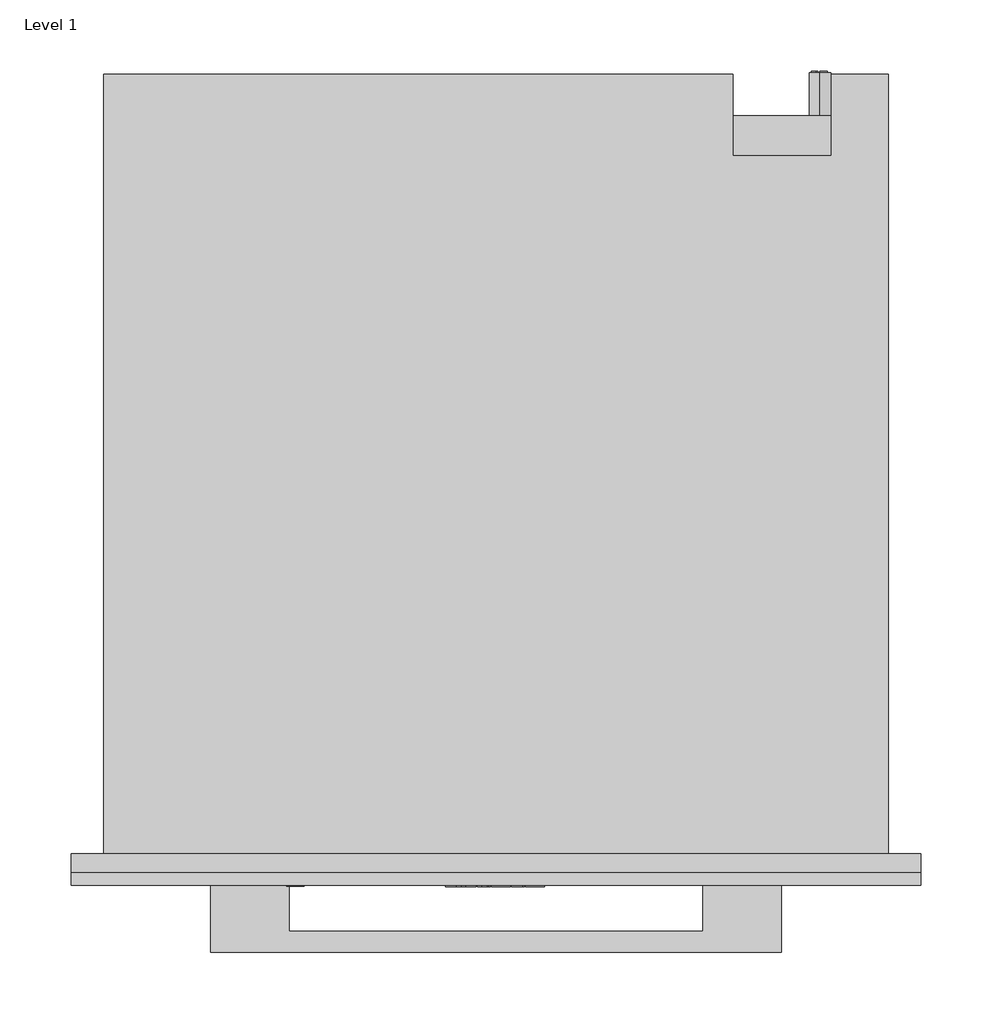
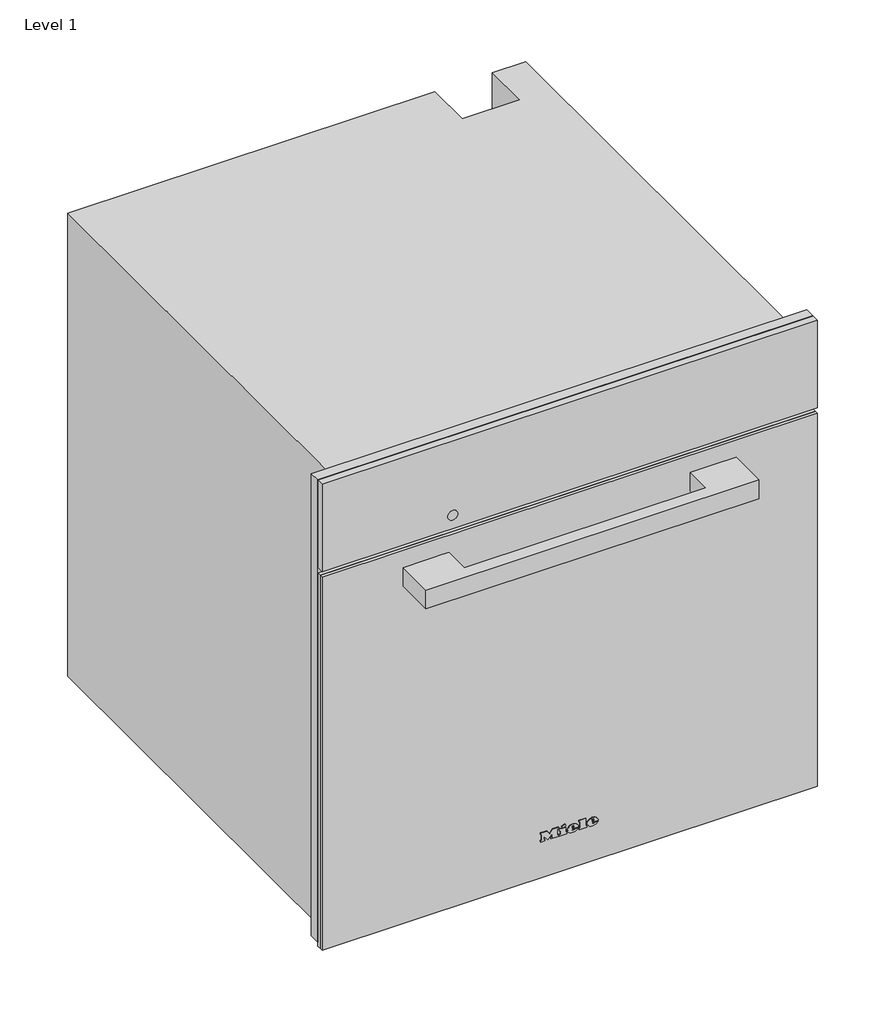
# One storey: 1 proxy.
"""IFC4 building model written with IfcOpenShell, lengths in millimetres."""

import ifcopenshell
import ifcopenshell.guid

model = None  # the IFC model being written
_history = None  # IfcOwnerHistory: only IFC2X3 demands one
_inside = {}  # id of a spatial element -> (the spatial element, [elements in it])
_under = {}  # id of a project, library or spatial element -> (it, [spatial elements below it])
_declared = {}  # id of a project -> (the project, [libraries it declares])
_typed = {}  # id of a type object -> (the type object, [elements of that type])
_made_of = {}  # id of a material, layer set ... -> (it, [elements and type objects made of it])


def new_model(schema):
    """Start an empty IFC model of exactly this schema.

    Asked for "IFC4X3", IfcOpenShell would pick the latest addendum, in which some entities
    have other attributes; the version numbers below select the first issue.
    IFC2X3 requires an IfcOwnerHistory on every rooted entity: one is made here for all.
    """
    global model, _history
    if schema == "IFC4X3":
        model = ifcopenshell.file(schema_version=(4, 3, 0, 0))
    else:
        model = ifcopenshell.file(schema=schema)
    _inside.clear()
    _under.clear()
    _declared.clear()
    _typed.clear()
    _made_of.clear()
    _history = None
    if model.schema == "IFC2X3":
        org = make("IfcOrganization", Name="unknown")
        user = make(
            "IfcPersonAndOrganization",
            ThePerson=make("IfcPerson", FamilyName="unknown"),
            TheOrganization=org,
        )
        app = make(
            "IfcApplication",
            ApplicationDeveloper=org,
            Version="unknown",
            ApplicationFullName="unknown",
            ApplicationIdentifier="unknown",
        )
        _history = make(
            "IfcOwnerHistory",
            OwningUser=user,
            OwningApplication=app,
            ChangeAction="ADDED",
            CreationDate=0,
        )
    return model


def make(cls, **values):
    """One entity of the class cls with the attributes given. An attribute that is None is left unset."""
    return model.create_entity(
        cls, **{name: value for name, value in values.items() if value is not None}
    )


def rooted(cls, **values):
    """An entity with a GlobalId (a new one), such as an element, a storey or a relation."""
    return make(cls, GlobalId=ifcopenshell.guid.new(), OwnerHistory=_history, **values)


def si_unit(unit_type, name, prefix=None):
    """IfcSIUnit, for example si_unit("LENGTHUNIT", "METRE", prefix="MILLI")."""
    return make("IfcSIUnit", UnitType=unit_type, Prefix=prefix, Name=name)


def assignment(units):
    """IfcUnitAssignment: the units of a project."""
    return None if units is None else make("IfcUnitAssignment", Units=units)


def point(xyz):
    """IfcCartesianPoint."""
    return None if xyz is None else make("IfcCartesianPoint", Coordinates=xyz)


def direction(xyz):
    """IfcDirection."""
    return None if xyz is None else make("IfcDirection", DirectionRatios=xyz)


def frame(location, z_axis=None, x_axis=None):
    """IfcAxis2Placement3D, a coordinate frame: its origin and axes. An axis left out is left unset."""
    return make(
        "IfcAxis2Placement3D",
        Location=point(location),
        Axis=direction(z_axis),
        RefDirection=direction(x_axis),
    )


def frame_2d(location, x_axis=None):
    """IfcAxis2Placement2D, a coordinate frame in the plane: its origin and x axis."""
    return make(
        "IfcAxis2Placement2D", Location=point(location), RefDirection=direction(x_axis)
    )


def origin():
    """The frame at (0, 0, 0) with its axes left unset."""
    return frame((0.0, 0.0, 0.0))


def place(relative_to, where):
    """IfcLocalPlacement: puts the frame where relative to a parent placement (None: the world)."""
    return make(
        "IfcLocalPlacement", PlacementRelTo=relative_to, RelativePlacement=where
    )


def context(
    kind, dimensions, precision=None, world=None, true_north=None, identifier=None
):
    """IfcGeometricRepresentationContext, for example the 3D "Model" context."""
    return make(
        "IfcGeometricRepresentationContext",
        ContextIdentifier=identifier,
        ContextType=kind,
        CoordinateSpaceDimension=dimensions,
        Precision=precision,
        WorldCoordinateSystem=world,
        TrueNorth=true_north,
    )


def project(units=None, contexts=None):
    """IfcProject with its units and contexts."""
    return rooted(
        "IfcProject",
        Name="project",
        RepresentationContexts=contexts,
        UnitsInContext=assignment(units),
    )


def spatial(cls, under=None, at=None, **own):
    """A site, building, storey or space (cls), placed at a placement, below another one or the project."""
    s = rooted(cls, ObjectPlacement=at, **own)
    if under is not None:
        _under.setdefault(under.id(), (under, []))[1].append(s)
    return s


def polyline(points):
    """IfcPolyline through the points."""
    return make("IfcPolyline", Points=[point(p) for p in points])


def circle_curve(where, radius):
    """IfcCircle in the frame where."""
    return make("IfcCircle", Position=where, Radius=radius)


def ellipse_curve(where, semi_axis1, semi_axis2):
    """IfcEllipse in the frame where."""
    return make(
        "IfcEllipse", Position=where, SemiAxis1=semi_axis1, SemiAxis2=semi_axis2
    )


def trimmed(basis, trim1, trim2, sense, master):
    """IfcTrimmedCurve: the piece of a basis curve between two trims."""
    return make(
        "IfcTrimmedCurve",
        BasisCurve=basis,
        Trim1=trim1,
        Trim2=trim2,
        SenseAgreement=sense,
        MasterRepresentation=master,
    )


def segment(curve, same_sense, transition):
    """IfcCompositeCurveSegment."""
    return make(
        "IfcCompositeCurveSegment",
        Transition=transition,
        SameSense=same_sense,
        ParentCurve=curve,
    )


def composite_curve(segments, self_intersect=None):
    """IfcCompositeCurve: segments joined end to end."""
    return make("IfcCompositeCurve", Segments=segments, SelfIntersect=self_intersect)


def outline(outer, holes=None, kind="AREA"):
    """IfcArbitraryClosedProfileDef: a profile drawn as a closed curve; with holes, ...WithVoids."""
    if holes is None:
        return make("IfcArbitraryClosedProfileDef", ProfileType=kind, OuterCurve=outer)
    return make(
        "IfcArbitraryProfileDefWithVoids",
        ProfileType=kind,
        OuterCurve=outer,
        InnerCurves=holes,
    )


def extrude(swept, where, along, depth):
    """IfcExtrudedAreaSolid: the profile swept, set in the frame where, extruded along a direction by depth."""
    return make(
        "IfcExtrudedAreaSolid",
        SweptArea=swept,
        Position=where,
        ExtrudedDirection=direction(along),
        Depth=depth,
    )


def faces_of(points, faces, orient=None, outer=None):
    """IfcFace entities. A face is a list of loops; a loop is a list of indices into points, from 0.

    orient and outer hold one flag for each loop. By default every Orientation is true, the
    first loop of a face is its IfcFaceOuterBound and the others are IfcFaceBound.
    """
    made = []
    for i, loops in enumerate(faces):
        bounds = []
        for j, loop in enumerate(loops):
            is_outer = j == 0 if outer is None else outer[i][j]
            bounds.append(
                make(
                    "IfcFaceOuterBound" if is_outer else "IfcFaceBound",
                    Bound=make("IfcPolyLoop", Polygon=[points[k] for k in loop]),
                    Orientation=True if orient is None else orient[i][j],
                )
            )
        made.append(make("IfcFace", Bounds=bounds))
    return made


def faceted_brep(points, faces, orient=None, outer=None, voids=None):
    """IfcFacetedBrep: a solid bounded by flat faces; with voids (closed shells), ...WithVoids."""
    shared = [point(p) for p in points]
    hull = make("IfcClosedShell", CfsFaces=faces_of(shared, faces, orient, outer))
    if voids is None:
        return make("IfcFacetedBrep", Outer=hull)
    return make(
        "IfcFacetedBrepWithVoids",
        Outer=hull,
        Voids=[
            make(cls, CfsFaces=faces_of(shared, fs, o, b)) for cls, fs, o, b in voids
        ],
    )


def shape(context_of_items, identifier, shape_type, items):
    """IfcShapeRepresentation: the items that make up one representation, for example the "Body"."""
    return make(
        "IfcShapeRepresentation",
        ContextOfItems=context_of_items,
        RepresentationIdentifier=identifier,
        RepresentationType=shape_type,
        Items=items,
    )


def source(mapping_origin, context_of_items, identifier, shape_type, items):
    """IfcRepresentationMap: a shape defined once, which mapped items show again and again."""
    return make(
        "IfcRepresentationMap",
        MappingOrigin=mapping_origin,
        MappedRepresentation=shape(context_of_items, identifier, shape_type, items),
    )


def transform(
    local_origin,
    x_axis=None,
    y_axis=None,
    z_axis=None,
    scale=None,
    scale2=None,
    scale3=None,
    uniform=True,
):
    """IfcCartesianTransformationOperator3D, or its non-uniform kind. x_axis, y_axis, z_axis: its Axis1, 2, 3."""
    if uniform:
        return make(
            "IfcCartesianTransformationOperator3D",
            Axis1=direction(x_axis),
            Axis2=direction(y_axis),
            LocalOrigin=point(local_origin),
            Scale=scale,
            Axis3=direction(z_axis),
        )
    return make(
        "IfcCartesianTransformationOperator3DnonUniform",
        Axis1=direction(x_axis),
        Axis2=direction(y_axis),
        LocalOrigin=point(local_origin),
        Scale=scale,
        Axis3=direction(z_axis),
        Scale2=scale2,
        Scale3=scale3,
    )


def mapped(mapping_source, mapping_target):
    """IfcMappedItem: shows the shape of a source again, moved by a transform."""
    return make(
        "IfcMappedItem", MappingSource=mapping_source, MappingTarget=mapping_target
    )


def made_of(thing, what):
    """Note that an element or type object is made of a material, layer set ...; save() writes the relation."""
    if what is not None:
        _made_of.setdefault(what.id(), (what, []))[1].append(thing)
    return thing


def element(
    cls,
    number,
    at=None,
    inside=None,
    cuts=None,
    type_object=None,
    material=None,
    context=None,
    identifier="Body",
    shape_type=None,
    held_by="IfcProductDefinitionShape",
    body=None,
    shapes=None,
    **own,
):
    """One element of the class cls, such as IfcWall. Its Tag is "e" and its number.

    at: its placement. inside: the storey or other place that contains it. cuts: it is an
    opening in that element (IfcRelVoidsElement). A single representation is given by context,
    identifier, shape_type and body (its items); several are given by shapes. held_by: the class
    of the entity that holds the representations. save() writes the other relations.
    """
    e = rooted(cls, Tag="e%d" % number, ObjectPlacement=at, **own)
    if body is not None:
        shapes = [shape(context, identifier, shape_type, body)]
    if shapes is not None:
        e.Representation = make(held_by, Representations=shapes)
    if inside is not None:
        _inside.setdefault(inside.id(), (inside, []))[1].append(e)
    if cuts is not None:
        rooted(
            "IfcRelVoidsElement", RelatingBuildingElement=cuts, RelatedOpeningElement=e
        )
    if type_object is not None:
        _typed.setdefault(type_object.id(), (type_object, []))[1].append(e)
    return made_of(e, material)


def aggregate(whole, parts):
    """IfcRelAggregates: a whole, such as a stair, and the parts it consists of."""
    return rooted("IfcRelAggregates", RelatingObject=whole, RelatedObjects=parts)


def save(model, path):
    """Write the relations noted so far, then the file.

    IfcRelAggregates (storeys below a building ...), IfcRelContainedInSpatialStructure (elements
    in a storey), IfcRelDefinesByType, IfcRelAssociatesMaterial and IfcRelDeclares: one each for
    every whole, place, type object, material and project.
    """
    for whole, parts in _under.values():
        aggregate(whole, parts)
    for where, things in _inside.values():
        rooted(
            "IfcRelContainedInSpatialStructure",
            RelatedElements=things,
            RelatingStructure=where,
        )
    for kind, things in _typed.values():
        rooted("IfcRelDefinesByType", RelatedObjects=things, RelatingType=kind)
    for what, things in _made_of.values():
        rooted("IfcRelAssociatesMaterial", RelatedObjects=things, RelatingMaterial=what)
    for by, libraries in _declared.values():
        rooted("IfcRelDeclares", RelatingContext=by, RelatedDefinitions=libraries)
    model.write(path)


def plane_surface(at):
    """IfcPlane: the flat surface through the origin of the frame at, square to its z axis."""
    return make("IfcPlane", Position=at)


def cylinder_surface(at, radius):
    """IfcCylindricalSurface: all points at the distance radius from the z axis of the frame at."""
    return make("IfcCylindricalSurface", Position=at, Radius=radius)


def revolved_surface(curve, axis_point, axis_direction):
    """IfcSurfaceOfRevolution: the curve turned about the line through axis_point along axis_direction."""
    return make(
        "IfcSurfaceOfRevolution",
        SweptCurve=make("IfcArbitraryOpenProfileDef", ProfileType="CURVE", Curve=curve),
        AxisPosition=make("IfcAxis1Placement", Location=point(axis_point), Axis=direction(axis_direction)),
    )


def extruded_surface(curve, direction_of_extrusion, depth):
    """IfcSurfaceOfLinearExtrusion: the curve pushed along a direction by depth."""
    return make(
        "IfcSurfaceOfLinearExtrusion",
        SweptCurve=make("IfcArbitraryOpenProfileDef", ProfileType="CURVE", Curve=curve),
        ExtrudedDirection=direction(direction_of_extrusion),
        Depth=depth,
    )


def advanced_brep(points, edges, surfaces, faces):
    """IfcAdvancedBrep: a solid bounded by faces that lie on surfaces and meet in shared edges.

    An edge is (start, end): straight between two places in points (the first is 0);
    or (start, end, curve); or (start, end, curve, False) where it runs against its curve.
    A face is (place in surfaces, loops), or (place, loops, False) where it looks against
    its surface's normal. A loop lists edges by number (the first is 1), with a minus sign
    where the edge is run from its end to its start. The first loop is the outer one.
    """
    corners = [point(p) for p in points]
    vertices = [make("IfcVertexPoint", VertexGeometry=c) for c in corners]
    made = []
    for start, end, *more in edges:
        made.append(
            make(
                "IfcEdgeCurve",
                EdgeStart=vertices[start],
                EdgeEnd=vertices[end],
                EdgeGeometry=more[0] if more else make("IfcPolyline", Points=[corners[start], corners[end]]),
                SameSense=more[1] if len(more) > 1 else True,
            )
        )
    hull = []
    for where, loops, *sense in faces:
        bounds = []
        for j, loop in enumerate(loops):
            ring = [make("IfcOrientedEdge", EdgeElement=made[abs(k) - 1], Orientation=k > 0) for k in loop]
            bounds.append(
                make(
                    "IfcFaceOuterBound" if j == 0 else "IfcFaceBound",
                    Bound=make("IfcEdgeLoop", EdgeList=ring),
                    Orientation=True,
                )
            )
        hull.append(make("IfcAdvancedFace", Bounds=bounds, FaceSurface=surfaces[where], SameSense=sense[0] if sense else True))
    return make("IfcAdvancedBrep", Outer=make("IfcClosedShell", CfsFaces=hull))


def specialty_equipment_684bbd22(model_context):
    return source(origin(), model_context, "Body", "SolidModel", [
        extrude(outline(polyline([(596.0, 297.5), (596.0, -297.5), (9.0, -297.5), (9.0, 297.5), (596.0, 297.5)]), holes=[polyline([(485.0, -272.5), (485.0, 272.5), (27.0, 272.5), (27.0, -272.5), (485.0, -272.5)])]), frame((0.0, -13.0, 0.0), z_axis=(0.0, 1.0, 0.0), x_axis=(0.0, 0.0, 1.0)), (0.0, 0.0, 1.0), 13.0),
        advanced_brep(
        [(227.0, 547.0, 396.5), (227.0, 547.0, 381.5), (221.4098301, 547.0, 384.0), (225.5, 547.0, 384.0), (225.5, 547.0, 394.0), (224.4955303, 547.0, 394.0), (224.4955303, 547.0, 385.0), (221.0315043, 547.0, 385.0), (221.0315043, 547.0, 384.4582978), (232.0, 547.0, 384.0), (232.0, 547.0, 394.0), (227.0, 547.0, 394.0), (227.0, 547.0, 393.0), (231.0, 547.0, 393.0), (231.0, 547.0, 389.5), (228.0, 547.0, 389.5), (228.0, 547.0, 388.5), (231.0, 547.0, 388.5), (231.0, 547.0, 385.0), (227.0, 547.0, 385.0), (227.0, 547.0, 384.0), (227.0, 517.0, 381.5), (227.0, 517.0, 396.5), (232.0, 548.0, 394.0), (232.0, 548.0, 384.0), (227.0, 548.0, 384.0), (227.0, 548.0, 385.0), (231.0, 548.0, 385.0), (231.0, 548.0, 388.5), (228.0, 548.0, 388.5), (228.0, 548.0, 389.5), (231.0, 548.0, 389.5), (231.0, 548.0, 393.0), (227.0, 548.0, 393.0), (227.0, 548.0, 394.0), (225.5, 548.0, 384.0), (221.0315043, 548.0, 384.0), (221.0315043, 548.0, 385.0), (224.4955303, 548.0, 385.0), (224.4955303, 548.0, 394.0), (225.5, 548.0, 394.0), (221.0315043, 547.0, 384.0)],
        [
            (0, 1, circle_curve(frame((227.0, 547.0, 389.0), z_axis=(0.0, 1.0, 0.0), x_axis=(0.0, 0.0, 1.0)), 7.5)),
            (1, 2, circle_curve(frame((227.0, 547.0, 389.0), z_axis=(0.0, 1.0, 0.0), x_axis=(0.0, 0.0, 1.0)), 7.5)),
            (2, 3),
            (3, 4),
            (4, 5),
            (5, 6),
            (6, 7),
            (7, 8),
            (8, 0, circle_curve(frame((227.0, 547.0, 389.0), z_axis=(0.0, 1.0, 0.0), x_axis=(0.0, 0.0, 1.0)), 7.5)),
            (9, 10),
            (10, 11),
            (11, 12),
            (12, 13),
            (13, 14),
            (14, 15),
            (15, 16),
            (16, 17),
            (17, 18),
            (18, 19),
            (19, 20),
            (20, 9),
            (21, 22, circle_curve(frame((227.0, 517.0, 389.0), z_axis=(0.0, -1.0, 0.0), x_axis=(0.0, 0.0, 1.0)), 7.5)),
            (22, 21, circle_curve(frame((227.0, 517.0, 389.0), z_axis=(0.0, -1.0, 0.0), x_axis=(0.0, 0.0, 1.0)), 7.5)),
            (0, 22),
            (21, 1),
            (8, 2, circle_curve(frame((227.0, 547.0, 389.0), z_axis=(0.0, -1.0, 0.0), x_axis=(0.0, 0.0, 1.0)), 7.5)),
            (23, 24),
            (24, 25),
            (25, 26),
            (26, 27),
            (27, 28),
            (28, 29),
            (29, 30),
            (30, 31),
            (31, 32),
            (32, 33),
            (33, 34),
            (34, 23),
            (35, 36),
            (36, 37),
            (37, 38),
            (38, 39),
            (39, 40),
            (40, 35),
            (8, 41),
            (41, 2),
            (23, 10),
            (9, 24),
            (20, 25),
            (19, 26),
            (18, 27),
            (17, 28),
            (16, 29),
            (15, 30),
            (14, 31),
            (13, 32),
            (12, 33),
            (11, 34),
            (35, 3),
            (41, 36),
            (7, 37),
            (6, 38),
            (5, 39),
            (4, 40),
        ],
        [
            plane_surface(frame((227.0, 547.0, 396.5), z_axis=(0.0, 1.0, 0.0), x_axis=(1.0, 0.0, 0.0))),
            plane_surface(frame((227.0, 517.0, 396.5), z_axis=(0.0, -1.0, 0.0), x_axis=(-1.0, 0.0, 0.0))),
            cylinder_surface(frame((227.0, 547.0, 389.0), z_axis=(0.0, -1.0, 0.0), x_axis=(0.0, 0.0, 1.0)), 7.5),
            plane_surface(frame((232.0, 548.0, 394.0), z_axis=(0.0, 1.0, 0.0), x_axis=(0.0, 0.0, -1.0))),
            plane_surface(frame((232.0, 547.0, 394.0), z_axis=(0.0, -1.0, 0.0), x_axis=(0.0, 0.0, 1.0))),
            plane_surface(frame((232.0, 548.0, 394.0), z_axis=(1.0, 0.0, 0.0), x_axis=(0.0, -1.0, 0.0))),
            plane_surface(frame((232.0, 548.0, 384.0), z_axis=(0.0, 0.0, -1.0), x_axis=(0.0, -1.0, 0.0))),
            plane_surface(frame((227.0, 548.0, 384.0), z_axis=(-1.0, 0.0, 0.0), x_axis=(0.0, -1.0, 0.0))),
            plane_surface(frame((227.0, 548.0, 385.0), z_axis=(0.0, 0.0, 1.0), x_axis=(0.0, -1.0, 0.0))),
            plane_surface(frame((231.0, 548.0, 385.0), z_axis=(-1.0, 0.0, 0.0), x_axis=(0.0, -1.0, 0.0))),
            plane_surface(frame((231.0, 548.0, 388.5), z_axis=(0.0, 0.0, -1.0), x_axis=(0.0, -1.0, 0.0))),
            plane_surface(frame((228.0, 548.0, 388.5), z_axis=(-1.0, 0.0, 0.0), x_axis=(0.0, -1.0, 0.0))),
            plane_surface(frame((228.0, 548.0, 389.5), z_axis=(0.0, 0.0, 1.0), x_axis=(0.0, -1.0, 0.0))),
            plane_surface(frame((231.0, 548.0, 389.5), z_axis=(-1.0, 0.0, 0.0), x_axis=(0.0, -1.0, 0.0))),
            plane_surface(frame((231.0, 548.0, 393.0), z_axis=(0.0, 0.0, -1.0), x_axis=(0.0, -1.0, 0.0))),
            plane_surface(frame((227.0, 548.0, 393.0), z_axis=(-1.0, 0.0, 0.0), x_axis=(0.0, -1.0, 0.0))),
            plane_surface(frame((227.0, 548.0, 394.0), z_axis=(0.0, 0.0, 1.0), x_axis=(0.0, -1.0, 0.0))),
            plane_surface(frame((225.5, 548.0, 384.0), z_axis=(0.0, 0.0, -1.0), x_axis=(0.0, -1.0, 0.0))),
            plane_surface(frame((221.0315043, 548.0, 384.0), z_axis=(-1.0, 0.0, 0.0), x_axis=(0.0, -1.0, 0.0))),
            plane_surface(frame((221.0315043, 548.0, 385.0), z_axis=(0.0, 0.0, 1.0), x_axis=(0.0, -1.0, 0.0))),
            plane_surface(frame((224.4955303, 548.0, 385.0), z_axis=(-1.0, 0.0, 0.0), x_axis=(0.0, -1.0, 0.0))),
            plane_surface(frame((224.4955303, 548.0, 394.0), z_axis=(0.0, 0.0, 1.0), x_axis=(0.0, -1.0, 0.0))),
            plane_surface(frame((225.5, 548.0, 394.0), z_axis=(1.0, 0.0, 0.0), x_axis=(0.0, -1.0, 0.0))),
        ],
        [
            (0, [[1, 2, 3, 4, 5, 6, 7, 8, 9], [10, 11, 12, 13, 14, 15, 16, 17, 18, 19, 20, 21]]),
            (1, [[22, 23]]),
            (2, [[-1, 24, -22, 25]]),
            (2, [[-23, -24, -9, 26, -2, -25]]),
            (3, [[27, 28, 29, 30, 31, 32, 33, 34, 35, 36, 37, 38]]),
            (3, [[39, 40, 41, 42, 43, 44]]),
            (4, [[45, 46, -26]]),
            (5, [[-27, 47, -10, 48]]),
            (6, [[-28, -48, -21, 49]]),
            (7, [[-29, -49, -20, 50]]),
            (8, [[-30, -50, -19, 51]]),
            (9, [[-31, -51, -18, 52]]),
            (10, [[-32, -52, -17, 53]]),
            (11, [[-33, -53, -16, 54]]),
            (12, [[-34, -54, -15, 55]]),
            (13, [[-35, -55, -14, 56]]),
            (14, [[-36, -56, -13, 57]]),
            (15, [[-37, -57, -12, 58]]),
            (16, [[-38, -58, -11, -47]]),
            (17, [[-39, 59, -3, -46, 60]]),
            (18, [[-40, -60, -45, -8, 61]]),
            (19, [[-41, -61, -7, 62]]),
            (20, [[-42, -62, -6, 63]]),
            (21, [[-43, -63, -5, 64]]),
            (22, [[-44, -64, -4, -59]]),
        ],
    ),
        faceted_brep([(-275.0, 546.0, 0.0), (-275.0, 546.0, 588.0), (166.0, 546.0, 588.0), (166.0, 546.0, 0.0), (235.0, 546.0, 588.0), (275.0, 546.0, 588.0), (275.0, 546.0, 478.0), (235.0, 546.0, 478.0), (275.0, 0.0, 588.0), (-275.0, 0.0, 588.0), (-275.0, 0.0, 0.0), (275.0, 0.0, 0.0), (-272.5, 0.0, 485.0), (272.5, 0.0, 485.0), (272.5, 0.0, 27.0), (-272.5, 0.0, 27.0), (235.0, 489.0, 588.0), (166.0, 489.0, 588.0), (166.0, 517.0, 0.0), (275.0, 517.0, 0.0), (275.0, 517.0, 478.0), (272.5, 17.0, 485.0), (-272.5, 17.0, 485.0), (-272.5, 17.0, 27.0), (272.5, 17.0, 27.0), (231.0, 17.0, 409.0), (231.0, 17.0, 61.0), (-231.0, 17.0, 61.0), (-231.0, 17.0, 409.0), (231.0, 411.0, 409.0), (-231.0, 411.0, 409.0), (-231.0, 411.0, 61.0), (231.0, 411.0, 61.0), (235.0, 489.0, 477.0), (166.0, 489.0, 477.0), (166.0, 517.0, 477.0), (235.0, 517.0, 477.0), (235.0, 517.0, 478.0)], [[[0, 1, 2, 3]], [[4, 5, 6, 7]], [[8, 9, 10, 11], [12, 13, 14, 15]], [[9, 8, 5, 4, 16, 17, 2, 1]], [[1, 0, 10, 9]], [[11, 10, 0, 3, 18, 19]], [[8, 11, 19, 20, 6, 5]], [[21, 22, 23, 24], [25, 26, 27, 28]], [[22, 21, 13, 12]], [[23, 22, 12, 15]], [[24, 23, 15, 14]], [[21, 24, 14, 13]], [[29, 30, 31, 32]], [[29, 32, 26, 25]], [[32, 31, 27, 26]], [[31, 30, 28, 27]], [[30, 29, 25, 28]], [[16, 33, 34, 17]], [[17, 34, 35, 18, 3, 2]], [[34, 33, 36, 35]], [[33, 16, 4, 7, 37, 36]], [[37, 20, 19, 18, 35, 36]], [[20, 37, 7, 6]]]),
        advanced_brep(
        [(26.2998, -23.0, 52.7018), (26.2998, -23.0, 53.8532), (33.9264, -23.0, 53.8532), (20.6568, -23.0, 53.8532), (23.7918, -23.0, 50.0), (33.7326, -23.0, 52.7018), (30.2898, -23.0, 52.7018), (27.5766, -23.0, 51.425), (26.2998, -23.0, 55.3124), (26.2998, -23.0, 56.555), (28.2492, -23.0, 56.555), (28.2492, -23.0, 55.3124), (26.2998, -22.0, 52.7018), (27.5766, -22.0, 51.425), (30.2898, -22.0, 52.7018), (33.7326, -22.0, 52.7018), (23.7918, -22.0, 50.0), (20.6568, -22.0, 53.8532), (33.9264, -22.0, 53.8532), (26.2998, -22.0, 53.8532), (26.2998, -22.0, 55.3124), (28.2492, -22.0, 55.3124), (28.2492, -22.0, 56.555), (26.2998, -22.0, 56.555)],
        [
            (0, 1),
            (1, 2),
            (2, 3, ellipse_curve(frame((27.2916, -23.0, 53.8532), z_axis=(0.0, -1.0, 0.0), x_axis=(-1.0, 0.0, 0.0)), 6.6348, 5.4834)),
            (3, 4, circle_curve(frame((25.0686622, -23.0, 54.2408), z_axis=(0.0, -1.0, 0.0), x_axis=(0.0, 0.0, -1.0)), 4.4288556)),
            (4, 5, circle_curve(frame((27.1587808, -23.0, 57.2504), z_axis=(0.0, -1.0, 0.0), x_axis=(0.0, 0.0, -1.0)), 7.9940516)),
            (5, 6),
            (6, 7, circle_curve(frame((28.1338588, -23.0, 53.762), z_axis=(0.0, 1.0, 0.0), x_axis=(0.0, 0.0, -1.0)), 2.4025208)),
            (7, 0, circle_curve(frame((27.5766, -23.0, 52.7018), z_axis=(0.0, 1.0, 0.0), x_axis=(0.0, 0.0, -1.0)), 1.2768)),
            (8, 9),
            (9, 10, circle_curve(frame((27.2745, -23.0, 56.555), z_axis=(0.0, 1.0, 0.0), x_axis=(0.0, 0.0, -1.0)), 0.9747)),
            (10, 11),
            (11, 8),
            (12, 13, circle_curve(frame((27.5766, -22.0, 52.7018), z_axis=(0.0, -1.0, 0.0), x_axis=(0.0, 0.0, -1.0)), 1.2768)),
            (13, 14, circle_curve(frame((28.1338588, -22.0, 53.762), z_axis=(0.0, -1.0, 0.0), x_axis=(0.0, 0.0, -1.0)), 2.4025208)),
            (14, 15),
            (15, 16, circle_curve(frame((27.1587808, -22.0, 57.2504), z_axis=(0.0, 1.0, 0.0), x_axis=(0.0, 0.0, -1.0)), 7.9940516)),
            (16, 17, circle_curve(frame((25.0686622, -22.0, 54.2408), z_axis=(0.0, 1.0, 0.0), x_axis=(0.0, 0.0, -1.0)), 4.4288556)),
            (17, 18, ellipse_curve(frame((27.2916, -22.0, 53.8532), z_axis=(0.0, 1.0, 0.0), x_axis=(-1.0, 0.0, 0.0)), 6.6348, 5.4834)),
            (18, 19),
            (19, 12),
            (20, 21),
            (21, 22),
            (22, 23, circle_curve(frame((27.2745, -22.0, 56.555), z_axis=(0.0, -1.0, 0.0), x_axis=(0.0, 0.0, -1.0)), 0.9747)),
            (23, 20),
            (0, 12),
            (19, 1),
            (18, 2),
            (5, 15),
            (14, 6),
            (17, 3),
            (13, 7),
            (16, 4),
            (8, 20),
            (23, 9),
            (22, 10),
            (21, 11),
        ],
        [
            plane_surface(frame((26.2998, -23.0, 53.8532), z_axis=(0.0, -1.0, 0.0), x_axis=(0.0, 0.0, 1.0))),
            plane_surface(frame((26.2998, -22.0, 53.8532), z_axis=(0.0, 1.0, 0.0), x_axis=(0.0, 0.0, -1.0))),
            plane_surface(frame((26.2998, -23.0, 52.7018), z_axis=(1.0, 0.0, 0.0), x_axis=(0.0, 1.0, 0.0))),
            plane_surface(frame((26.2998, -23.0, 53.8532), z_axis=(0.0, 0.0, -1.0), x_axis=(0.0, 1.0, 0.0))),
            plane_surface(frame((33.7326, -23.0, 52.7018), z_axis=(0.0, 0.0, 1.0), x_axis=(0.0, 1.0, 0.0))),
            extruded_surface(trimmed(ellipse_curve(frame((27.2916, -21.0, 53.8532), z_axis=(0.0, -1.0, 0.0), x_axis=(-1.0, 0.0, 0.0)), 6.6348, 5.4834), [point((33.9264, -21.0, 53.8532))], [point((20.6568, -21.0, 53.8532))], True, "CARTESIAN"), (0.0, -1.0, 0.0), 1.0),
            revolved_surface(polyline([(28.1338588, -22.0, 51.3594792), (28.1338588, -23.0, 51.3594792)]), (28.1338588, -22.0, 53.762), (0.0, 1.0, 0.0)),
            revolved_surface(polyline([(27.5766, -22.0, 51.425), (27.5766, -23.0, 51.425)]), (27.5766, -22.0, 52.7018), (0.0, 1.0, 0.0)),
            cylinder_surface(frame((25.0686622, -22.0, 54.2408), z_axis=(0.0, -1.0, 0.0), x_axis=(0.0, 0.0, -1.0)), 4.4288556),
            cylinder_surface(frame((27.1587808, -22.0, 57.2504), z_axis=(0.0, -1.0, 0.0), x_axis=(0.0, 0.0, -1.0)), 7.9940516),
            plane_surface(frame((26.2998, -23.0, 55.3124), z_axis=(1.0, 0.0, 0.0), x_axis=(0.0, 1.0, 0.0))),
            revolved_surface(polyline([(27.2745, -22.0, 55.5803), (27.2745, -23.0, 55.5803)]), (27.2745, -22.0, 56.555), (0.0, 1.0, 0.0)),
            plane_surface(frame((28.2492, -23.0, 56.555), z_axis=(-1.0, 0.0, 0.0), x_axis=(0.0, 1.0, 0.0))),
            plane_surface(frame((28.2492, -23.0, 55.3124), z_axis=(0.0, 0.0, 1.0), x_axis=(0.0, 1.0, 0.0))),
        ],
        [
            (0, [[1, 2, 3, 4, 5, 6, 7, 8], [9, 10, 11, 12]]),
            (1, [[13, 14, 15, 16, 17, 18, 19, 20], [21, 22, 23, 24]]),
            (2, [[-1, 25, -20, 26]]),
            (3, [[-2, -26, -19, 27]]),
            (4, [[-6, 28, -15, 29]]),
            (5, [[-3, -27, -18, 30]]),
            (6, [[-7, -29, -14, 31]]),
            (7, [[-8, -31, -13, -25]]),
            (8, [[-4, -30, -17, 32]]),
            (9, [[-5, -32, -16, -28]]),
            (10, [[-9, 33, -24, 34]]),
            (11, [[-10, -34, -23, 35]]),
            (12, [[-11, -35, -22, 36]]),
            (13, [[-12, -36, -21, -33]]),
        ],
    ),
        advanced_brep(
        [(2.508, -23.0, 52.7018), (2.508, -23.0, 53.8532), (10.1346, -23.0, 53.8532), (-3.135, -23.0, 53.8532), (0.0, -23.0, 50.0), (9.9408, -23.0, 52.7018), (6.498, -23.0, 52.7018), (3.7848, -23.0, 51.425), (2.508, -23.0, 55.3124), (2.508, -23.0, 56.555), (4.4574, -23.0, 56.555), (4.4574, -23.0, 55.3124), (2.508, -22.0, 52.7018), (3.7848, -22.0, 51.425), (6.498, -22.0, 52.7018), (9.9408, -22.0, 52.7018), (0.0, -22.0, 50.0), (-3.135, -22.0, 53.8532), (10.1346, -22.0, 53.8532), (2.508, -22.0, 53.8532), (2.508, -22.0, 55.3124), (4.4574, -22.0, 55.3124), (4.4574, -22.0, 56.555), (2.508, -22.0, 56.555)],
        [
            (0, 1),
            (1, 2),
            (2, 3, ellipse_curve(frame((3.4998, -23.0, 53.8532), z_axis=(0.0, -1.0, 0.0), x_axis=(-1.0, 0.0, 0.0)), 6.6348, 5.4834)),
            (3, 4, circle_curve(frame((1.2768622, -23.0, 54.2408), z_axis=(0.0, -1.0, 0.0), x_axis=(0.0, 0.0, -1.0)), 4.4288556)),
            (4, 5, circle_curve(frame((3.3669808, -23.0, 57.2504), z_axis=(0.0, -1.0, 0.0), x_axis=(0.0, 0.0, -1.0)), 7.9940516)),
            (5, 6),
            (6, 7, circle_curve(frame((4.3420588, -23.0, 53.762), z_axis=(0.0, 1.0, 0.0), x_axis=(0.0, 0.0, -1.0)), 2.4025208)),
            (7, 0, circle_curve(frame((3.7848, -23.0, 52.7018), z_axis=(0.0, 1.0, 0.0), x_axis=(0.0, 0.0, -1.0)), 1.2768)),
            (8, 9),
            (9, 10, circle_curve(frame((3.4827, -23.0, 56.555), z_axis=(0.0, 1.0, 0.0), x_axis=(0.0, 0.0, -1.0)), 0.9747)),
            (10, 11),
            (11, 8),
            (12, 13, circle_curve(frame((3.7848, -22.0, 52.7018), z_axis=(0.0, -1.0, 0.0), x_axis=(0.0, 0.0, -1.0)), 1.2768)),
            (13, 14, circle_curve(frame((4.3420588, -22.0, 53.762), z_axis=(0.0, -1.0, 0.0), x_axis=(0.0, 0.0, -1.0)), 2.4025208)),
            (14, 15),
            (15, 16, circle_curve(frame((3.3669808, -22.0, 57.2504), z_axis=(0.0, 1.0, 0.0), x_axis=(0.0, 0.0, -1.0)), 7.9940516)),
            (16, 17, circle_curve(frame((1.2768622, -22.0, 54.2408), z_axis=(0.0, 1.0, 0.0), x_axis=(0.0, 0.0, -1.0)), 4.4288556)),
            (17, 18, ellipse_curve(frame((3.4998, -22.0, 53.8532), z_axis=(0.0, 1.0, 0.0), x_axis=(-1.0, 0.0, 0.0)), 6.6348, 5.4834)),
            (18, 19),
            (19, 12),
            (20, 21),
            (21, 22),
            (22, 23, circle_curve(frame((3.4827, -22.0, 56.555), z_axis=(0.0, -1.0, 0.0), x_axis=(0.0, 0.0, -1.0)), 0.9747)),
            (23, 20),
            (0, 12),
            (19, 1),
            (18, 2),
            (5, 15),
            (14, 6),
            (17, 3),
            (13, 7),
            (16, 4),
            (8, 20),
            (23, 9),
            (22, 10),
            (21, 11),
        ],
        [
            plane_surface(frame((2.508, -23.0, 53.8532), z_axis=(0.0, -1.0, 0.0), x_axis=(0.0, 0.0, 1.0))),
            plane_surface(frame((2.508, -22.0, 53.8532), z_axis=(0.0, 1.0, 0.0), x_axis=(0.0, 0.0, -1.0))),
            plane_surface(frame((2.508, -23.0, 52.7018), z_axis=(1.0, 0.0, 0.0), x_axis=(0.0, 1.0, 0.0))),
            plane_surface(frame((2.508, -23.0, 53.8532), z_axis=(0.0, 0.0, -1.0), x_axis=(0.0, 1.0, 0.0))),
            plane_surface(frame((9.9408, -23.0, 52.7018), z_axis=(0.0, 0.0, 1.0), x_axis=(0.0, 1.0, 0.0))),
            extruded_surface(trimmed(ellipse_curve(frame((3.4998, -21.0, 53.8532), z_axis=(0.0, -1.0, 0.0), x_axis=(-1.0, 0.0, 0.0)), 6.6348, 5.4834), [point((10.1346, -21.0, 53.8532))], [point((-3.135, -21.0, 53.8532))], True, "CARTESIAN"), (0.0, -1.0, 0.0), 1.0),
            revolved_surface(polyline([(4.3420588, -22.0, 51.3594792), (4.3420588, -23.0, 51.3594792)]), (4.3420588, -22.0, 53.762), (0.0, 1.0, 0.0)),
            revolved_surface(polyline([(3.7848, -22.0, 51.425), (3.7848, -23.0, 51.425)]), (3.7848, -22.0, 52.7018), (0.0, 1.0, 0.0)),
            cylinder_surface(frame((1.2768622, -22.0, 54.2408), z_axis=(0.0, -1.0, 0.0), x_axis=(0.0, 0.0, -1.0)), 4.4288556),
            cylinder_surface(frame((3.3669808, -22.0, 57.2504), z_axis=(0.0, -1.0, 0.0), x_axis=(0.0, 0.0, -1.0)), 7.9940516),
            plane_surface(frame((2.508, -23.0, 55.3124), z_axis=(1.0, 0.0, 0.0), x_axis=(0.0, 1.0, 0.0))),
            revolved_surface(polyline([(3.4827, -22.0, 55.5803), (3.4827, -23.0, 55.5803)]), (3.4827, -22.0, 56.555), (0.0, 1.0, 0.0)),
            plane_surface(frame((4.4574, -23.0, 56.555), z_axis=(-1.0, 0.0, 0.0), x_axis=(0.0, 1.0, 0.0))),
            plane_surface(frame((4.4574, -23.0, 55.3124), z_axis=(0.0, 0.0, 1.0), x_axis=(0.0, 1.0, 0.0))),
        ],
        [
            (0, [[1, 2, 3, 4, 5, 6, 7, 8], [9, 10, 11, 12]]),
            (1, [[13, 14, 15, 16, 17, 18, 19, 20], [21, 22, 23, 24]]),
            (2, [[-1, 25, -20, 26]]),
            (3, [[-2, -26, -19, 27]]),
            (4, [[-6, 28, -15, 29]]),
            (5, [[-3, -27, -18, 30]]),
            (6, [[-7, -29, -14, 31]]),
            (7, [[-8, -31, -13, -25]]),
            (8, [[-4, -30, -17, 32]]),
            (9, [[-5, -32, -16, -28]]),
            (10, [[-9, 33, -24, 34]]),
            (11, [[-10, -34, -23, 35]]),
            (12, [[-11, -35, -22, 36]]),
            (13, [[-12, -36, -21, -33]]),
        ],
    ),
        extrude(outline(polyline([(60.7274, -9.9522), (58.8806, -9.0858), (60.6818, -5.2212), (62.5286, -6.0762), (60.7274, -9.9522)])), frame((0.0, -23.0, 0.0), z_axis=(0.0, 1.0, 0.0), x_axis=(0.0, 0.0, 1.0)), (0.0, 0.0, 1.0), 1.0),
        extrude(outline(polyline([(58.6298, -12.768), (56.5892, -12.768), (56.5892, -11.4114), (51.9152, -11.4114), (51.9152, -12.768), (50.0, -12.768), (50.0, -3.7734), (51.9152, -3.7734), (51.9152, -5.0958), (58.6298, -5.0958), (58.6298, -12.768)])), frame((0.0, -23.0, 0.0), z_axis=(0.0, 1.0, 0.0), x_axis=(0.0, 0.0, 1.0)), (0.0, 0.0, 1.0), 1.0),
        extrude(outline(polyline([(59.5418, 10.773), (59.5418, 12.141), (51.9152, 12.141), (51.9152, 10.773), (50.0, 10.773), (50.0, 20.0184), (51.9152, 20.0184), (51.9152, 18.6162), (61.4, 18.6162), (61.4, 10.773), (59.5418, 10.773)])), frame((0.0, -23.0, 0.0), z_axis=(0.0, 1.0, 0.0), x_axis=(0.0, 0.0, 1.0)), (0.0, 0.0, 1.0), 1.0),
        extrude(outline(polyline([(59.5418, -35.4882), (59.5418, -34.1088), (51.9152, -34.1088), (51.9152, -35.4882), (50.0, -35.4882), (50.0, -30.4722), (51.9152, -30.4722), (51.9152, -31.8402), (56.7429247, -31.8402), (50.0, -26.7444), (56.9402223, -21.6258), (51.9152, -21.6258), (51.9152, -23.028), (50.0, -23.028), (50.0, -13.9308), (51.9152, -13.9308), (51.9152, -15.3786), (59.5418, -15.3786), (59.5418, -13.9308), (61.4, -13.9308), (61.4, -20.8734), (57.125, -24.2022), (61.4, -27.5424), (61.4, -35.4882), (59.5418, -35.4882)])), frame((0.0, -23.0, 0.0), z_axis=(0.0, 1.0, 0.0), x_axis=(0.0, 0.0, 1.0)), (0.0, 0.0, 1.0), 1.0),
        extrude(outline(polyline([(297.5, -22.0), (-297.5, -22.0), (-297.5, -13.0), (297.5, -13.0), (297.5, -22.0)])), frame((0.0, 0.0, 485.0), z_axis=(0.0, 0.0, 1.0), x_axis=(1.0, 0.0, 0.0)), (0.0, 0.0, 1.0), 111.0),
        extrude(outline(composite_curve([segment(trimmed(circle_curve(frame_2d((502.0, -140.5745637)), 6.0), [point((502.0, -146.5745637))], [point((502.0, -134.5745637))], False, "CARTESIAN"), True, "CONTINUOUS"), segment(trimmed(circle_curve(frame_2d((502.0, -140.5745637)), 6.0), [point((502.0, -134.5745637))], [point((502.0, -146.5745637))], False, "CARTESIAN"), True, "CONTINUOUS")], self_intersect=False)), frame((0.0, -22.5, 0.0), z_axis=(0.0, 1.0, 0.0), x_axis=(0.0, 0.0, 1.0)), (0.0, 0.0, 1.0), 1.0),
        extrude(outline(polyline([(-200.0, -69.0), (-200.0, -22.0), (-145.0, -22.0), (-145.0, -54.0), (145.0, -54.0), (145.0, -22.0), (200.0, -22.0), (200.0, -69.0), (-200.0, -69.0)])), frame((0.0, 0.0, 432.0), z_axis=(0.0, 0.0, 1.0), x_axis=(1.0, 0.0, 0.0)), (0.0, 0.0, 1.0), 24.0),
        extrude(outline(polyline([(297.5, -18.0), (-297.5, -18.0), (-297.5, -13.0), (297.5, -13.0), (297.5, -18.0)])), frame((0.0, 0.0, 4.0), z_axis=(0.0, 0.0, 1.0), x_axis=(1.0, 0.0, 0.0)), (0.0, 0.0, 1.0), 474.0),
        extrude(outline(polyline([(-297.5, -18.0), (297.5, -18.0), (297.5, -22.0), (-297.5, -22.0), (-297.5, -18.0)])), frame((0.0, 0.0, 4.0), z_axis=(0.0, 0.0, 1.0), x_axis=(1.0, 0.0, 0.0)), (0.0, 0.0, 1.0), 474.0),
    ])


model = new_model("IFC4")

# Units and contexts
model_context = context("Model", 3, world=origin())
ifc_project = project(units=[si_unit("LENGTHUNIT", "METRE", prefix="MILLI")], contexts=[model_context])

# Site, building, storey
site = spatial("IfcSite", under=ifc_project)
building = spatial("IfcBuilding", under=site)
storey = spatial("IfcBuildingStorey", under=building, Name="Level 1", Elevation=0.0)

# Proxy
placement = place(None, origin())
specialty_equipment_shape = specialty_equipment_684bbd22(model_context)
element("IfcBuildingElementProxy", 1, Name="11107240_D_DGC7860_OBSW : 23786023_D_11107240_DGC7860_OBSW", ObjectType="11107240_D_DGC7860_OBSW : 23786023_D_11107240_DGC7860_OBSW", at=placement, inside=storey, context=model_context, shape_type="MappedRepresentation", body=[
    mapped(specialty_equipment_shape, transform((0.0, 0.0, 0.0), x_axis=(1.0, 0.0, 0.0), y_axis=(0.0, 1.0, 0.0), z_axis=(0.0, 0.0, 1.0))),
])

save(model, "model.ifc")
